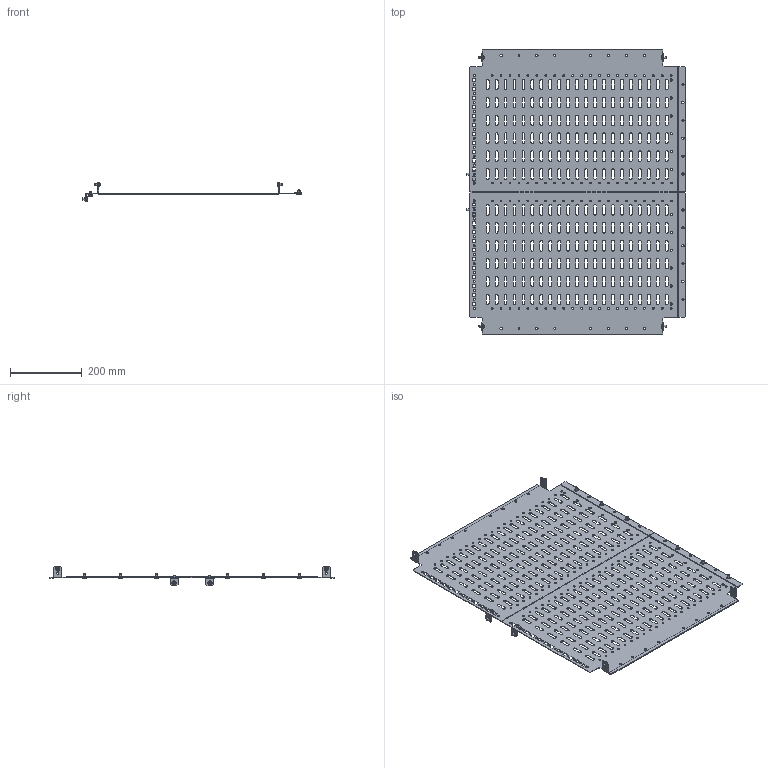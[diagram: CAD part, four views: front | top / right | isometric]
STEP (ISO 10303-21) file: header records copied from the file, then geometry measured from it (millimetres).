
FILE_DESCRIPTION (( 'STEP AP214' ), '1' );
FILE_NAME ('FO-00-SWH-080-060 Ïåðåãîðîäêà ñåêöèîíèðîâàíèÿ ãîðèçîíòàëüíàÿ 800õ600 ìì â øêàô ãëóáèíîé 1000 ìì.STEP', '2025-08-13T10:35:28', ( '' ), ( '' ), 'SwSTEP 2.0', 'SolidWorks 2023', '' );
FILE_SCHEMA (( 'AUTOMOTIVE_DESIGN' ));
Length unit declared in the file: millimetre
Products named in the file (6): FO-00-SWH-080-060 Перегородка секционирования горизонтальная 800х600 мм в шкаф глубиной 1000 мм; Перегородка секционирования горизонтальная 800х600 мм в шкаф глубиной 1000 мм L; Уголок; Перегородка секционирования горизонтальная 800х600 мм в шкаф глубиной 1000 мм (R); Перегородка секционирования горизонтальная 800х600 мм в шкаф глубиной 1000 мм (L); Перегородка секционирования горизонтальная 800х600 мм в шкаф глубиной 1000 мм R
Assembly tree (6 placements, depth 3):
  FO-00-SWH-080-060 Перегородка секционирования горизонтальная 800х600 мм в шкаф глубиной 1000 мм
    Перегородка секционирования горизонтальная 800х600 мм в шкаф глубиной 1000 мм (L)
      Перегородка секционирования горизонтальная 800х600 мм в шкаф глубиной 1000 мм L
      Уголок
    Перегородка секционирования горизонтальная 800х600 мм в шкаф глубиной 1000 мм (R)
      Перегородка секционирования горизонтальная 800х600 мм в шкаф глубиной 1000 мм R
      Уголок
Bounding box: 611.5 x 793.6 x 54 mm (x, y, z)
Volume: 639797.4 mm3; surface area: 867849.8 mm2
Topology: 4 solids, 4 shells, 2194 faces, 6390 edges, 4236 vertices
Faces by surface type: cylinder 1078, plane 1044, cone 32, sphere 24, torus 16
Entity records: 72680 total; most frequent: CARTESIAN_POINT 13146, ORIENTED_EDGE 12366, DIRECTION 12227, EDGE_CURVE 6183, AXIS2_PLACEMENT_3D 4107, VERTEX_POINT 4102, VECTOR 4013, LINE 4013
